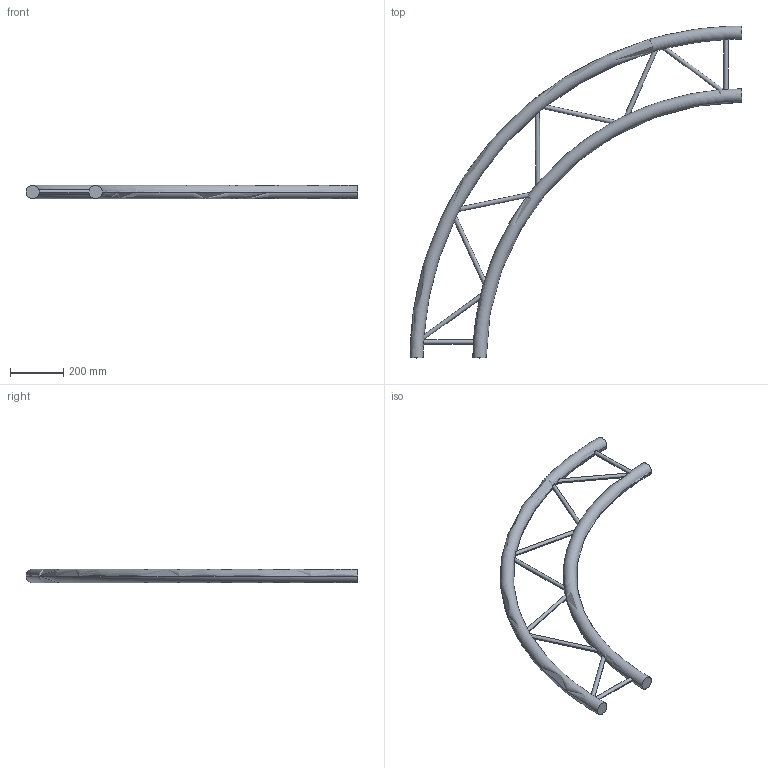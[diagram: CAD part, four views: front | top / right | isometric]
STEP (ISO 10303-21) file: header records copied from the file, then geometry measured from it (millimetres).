
FILE_DESCRIPTION (( 'STEP AP203' ), '1' );
FILE_NAME ('EXC29250H.STEP', '2009-10-26T09:34:11', ( 'CEDIA' ), ( 'CEDIA INDUSTRIE' ), 'SwSTEP 2.0', 'SolidWorks 2009', '' );
FILE_SCHEMA (( 'CONFIG_CONTROL_DESIGN' ));
Length unit declared in the file: millimetre
Products named in the file (1): EXC29250H
Bounding box: 1250 x 1250 x 50 mm (x, y, z)
Volume: 7268389.3 mm3; surface area: 660160.6 mm2
Topology: 1 solids, 1 shells, 26 faces, 85 edges, 45 vertices
Faces by surface type: cylinder 18, torus 4, plane 4
Entity records: 2589 total; most frequent: CARTESIAN_POINT 1817, ORIENTED_EDGE 170, DIRECTION 130, EDGE_CURVE 85, AXIS2_PLACEMENT_3D 56, VERTEX_POINT 45, B_SPLINE_CURVE_WITH_KNOTS 36, CIRCLE 29
